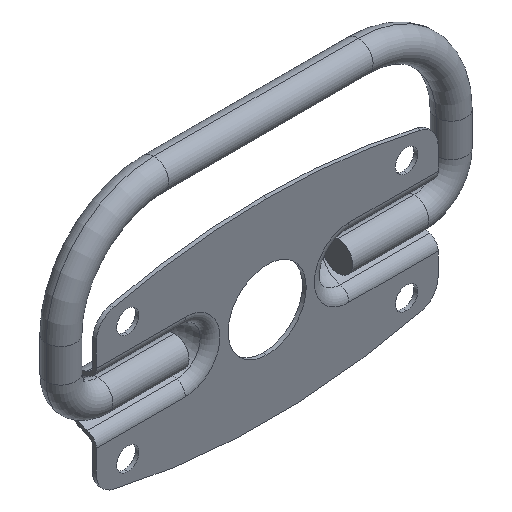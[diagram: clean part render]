
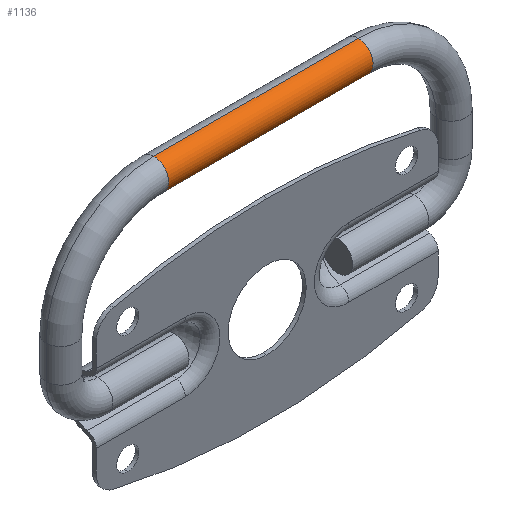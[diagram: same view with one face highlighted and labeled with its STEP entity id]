
A CAD part, isometric view. The second image highlights one B-rep face of the part: STEP entity #1136.
In plain terms, the highlighted cylindrical face has radius 4 mm (diameter 8 mm), a partial arc.
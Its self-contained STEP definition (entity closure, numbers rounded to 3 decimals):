
#7 = VECTOR ( 'NONE', #969, 1000. ) ;
#76 = EDGE_CURVE ( 'NONE', #824, #832, #1763, .T. ) ;
#269 = CARTESIAN_POINT ( 'NONE',  ( -27.5, 2., 44. ) ) ;
#432 = VERTEX_POINT ( 'NONE', #828 ) ;
#438 = AXIS2_PLACEMENT_3D ( 'NONE', #1578, #511, #800 ) ;
#450 = CARTESIAN_POINT ( 'NONE',  ( 27.5, 2., 40. ) ) ;
#466 = CARTESIAN_POINT ( 'NONE',  ( -27.5, 2., 40. ) ) ;
#511 = DIRECTION ( 'NONE',  ( 1., 0., 0. ) ) ;
#607 = VECTOR ( 'NONE', #1628, 1000. ) ;
#637 = AXIS2_PLACEMENT_3D ( 'NONE', #269, #692, #1583 ) ;
#692 = DIRECTION ( 'NONE',  ( -1., 0., 0. ) ) ;
#740 = EDGE_CURVE ( 'NONE', #824, #882, #1826, .T. ) ;
#788 = AXIS2_PLACEMENT_3D ( 'NONE', #1025, #1604, #1625 ) ;
#800 = DIRECTION ( 'NONE',  ( 0., 0., -1. ) ) ;
#824 = VERTEX_POINT ( 'NONE', #1165 ) ;
#828 = CARTESIAN_POINT ( 'NONE',  ( 27.5, 2., 48. ) ) ;
#832 = VERTEX_POINT ( 'NONE', #450 ) ;
#882 = VERTEX_POINT ( 'NONE', #1049 ) ;
#957 = CYLINDRICAL_SURFACE ( 'NONE', #438, 4. ) ;
#969 = DIRECTION ( 'NONE',  ( 1., 0., 0. ) ) ;
#977 = EDGE_LOOP ( 'NONE', ( #1397, #1609, #1882, #1520 ) ) ;
#1025 = CARTESIAN_POINT ( 'NONE',  ( 27.5, 2., 44. ) ) ;
#1042 = EDGE_CURVE ( 'NONE', #882, #432, #1129, .T. ) ;
#1049 = CARTESIAN_POINT ( 'NONE',  ( -27.5, 2., 48. ) ) ;
#1129 = LINE ( 'NONE', #1571, #7 ) ;
#1136 = ADVANCED_FACE ( 'NONE', ( #1691 ), #957, .T. ) ;
#1165 = CARTESIAN_POINT ( 'NONE',  ( -27.5, 2., 40. ) ) ;
#1307 = CIRCLE ( 'NONE', #788, 4. ) ;
#1385 = EDGE_CURVE ( 'NONE', #832, #432, #1307, .T. ) ;
#1397 = ORIENTED_EDGE ( 'NONE', *, *, #1042, .F. ) ;
#1520 = ORIENTED_EDGE ( 'NONE', *, *, #1385, .T. ) ;
#1571 = CARTESIAN_POINT ( 'NONE',  ( -27.5, 2., 48. ) ) ;
#1578 = CARTESIAN_POINT ( 'NONE',  ( -27.5, 2., 44. ) ) ;
#1583 = DIRECTION ( 'NONE',  ( 0., 0., 1. ) ) ;
#1604 = DIRECTION ( 'NONE',  ( -1., 0., 0. ) ) ;
#1609 = ORIENTED_EDGE ( 'NONE', *, *, #740, .F. ) ;
#1625 = DIRECTION ( 'NONE',  ( 0., 0., 1. ) ) ;
#1628 = DIRECTION ( 'NONE',  ( 1., 0., 0. ) ) ;
#1691 = FACE_OUTER_BOUND ( 'NONE', #977, .T. ) ;
#1763 = LINE ( 'NONE', #466, #607 ) ;
#1826 = CIRCLE ( 'NONE', #637, 4. ) ;
#1882 = ORIENTED_EDGE ( 'NONE', *, *, #76, .T. ) ;
